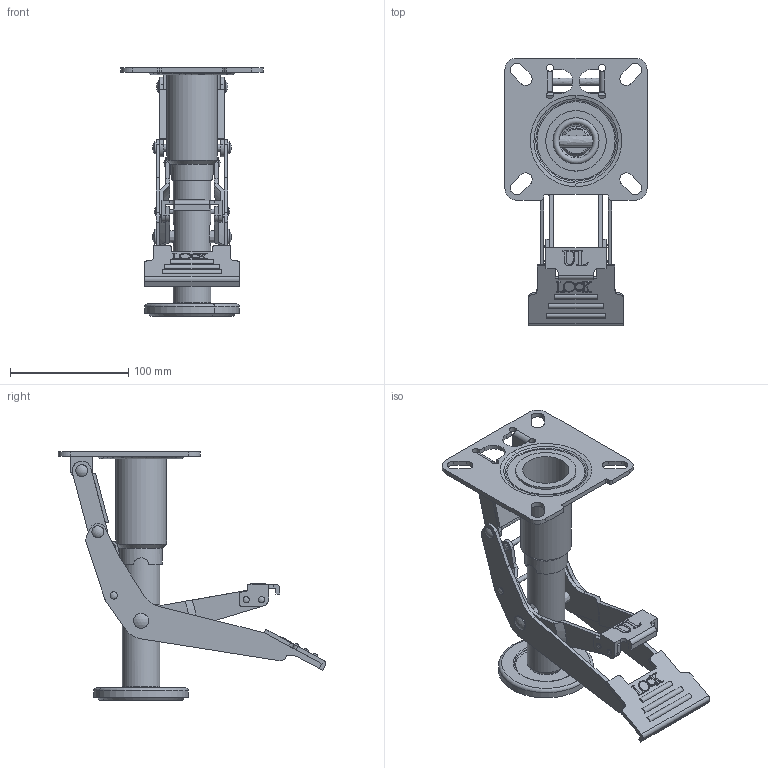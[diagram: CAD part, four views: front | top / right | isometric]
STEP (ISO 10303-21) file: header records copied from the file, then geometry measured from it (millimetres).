
FILE_DESCRIPTION( ( 'STEP AP214' ), '1' );
FILE_NAME( ' ', ' ', ( ' ' ), ( ' ' ), 'PSStep 10.0', ' ', ' ' );
FILE_SCHEMA( ( 'automotive_design' ) );
Length unit declared in the file: millimetre
Products named in the file (23): @939; DAI_LOCK _X2_306E7D50679C_X0_; ENCHU2_LOCK _X2_306E7D50679C_X0_; GOMU_LOCK _X2_306E7D50679C_X0_; @955; @959; @961; @963; @965; ENCHU1 _X2_306E7D50679C_X0_; @1719; @1894; @3132; @3443; @3445; @3447; @3449; @3685; @3687; @3689
Bounding box: 120 x 226.01 x 210 mm (x, y, z)
Volume: 236792.3 mm3; surface area: 188234.9 mm2
Topology: 23 solids, 23 shells, 521 faces, 1357 edges, 918 vertices
Faces by surface type: plane 239, cylinder 157, bspline 61, cone 30, torus 16, sphere 14, offset 4
Full cylindrical faces by diameter (mm): 3 x4, 4.1 x4, 6.1 x2, 10.1 x2, 25.4 x1, 28.8 x1, 31.8 x1, 32 x1, 33.8 x1, 36 x1, 39 x1, 43 x1, 51 x1
Entity records: 25965 total; most frequent: CARTESIAN_POINT 9334, ORIENTED_EDGE 2578, DIRECTION 2285, EDGE_CURVE 1289, VERTEX_POINT 906, AXIS2_PLACEMENT_3D 841, EDGE_LOOP 681, LINE 603
